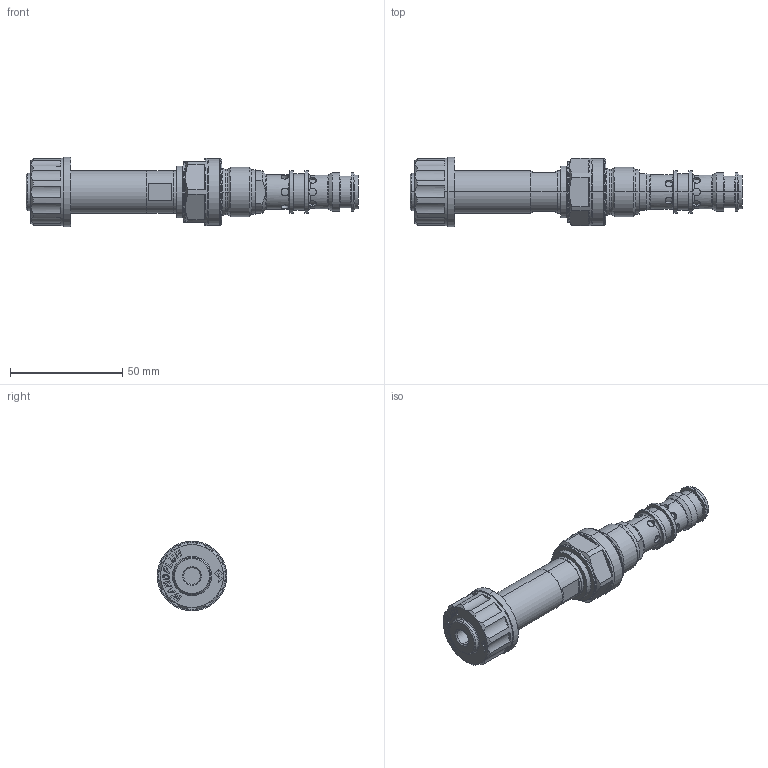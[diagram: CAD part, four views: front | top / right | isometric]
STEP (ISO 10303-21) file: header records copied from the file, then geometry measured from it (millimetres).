
FILE_DESCRIPTION (( 'STEP AP214' ), '1' );
FILE_NAME ('SDSPM22-X5-FG.STEP', '2018-09-13T09:39:12', ( '' ), ( '' ), 'SwSTEP 2.0', 'SolidWorks 2016', '' );
FILE_SCHEMA (( 'AUTOMOTIVE_DESIGN' ));
Length unit declared in the file: millimetre
Products named in the file (2): SDSPM22-X5-FG
Bounding box: 147.7 x 31 x 31 mm (x, y, z)
Volume: 50980.3 mm3; surface area: 16510.6 mm2
Topology: 2 solids, 2 shells, 435 faces, 1086 edges, 694 vertices
Faces by surface type: plane 181, cylinder 136, cone 55, torus 41, bspline 22
Entity records: 20150 total; most frequent: CARTESIAN_POINT 5277, ORIENTED_EDGE 2172, DIRECTION 2063, EDGE_CURVE 1086, AXIS2_PLACEMENT_3D 778, VERTEX_POINT 694, VECTOR 507, LINE 507
